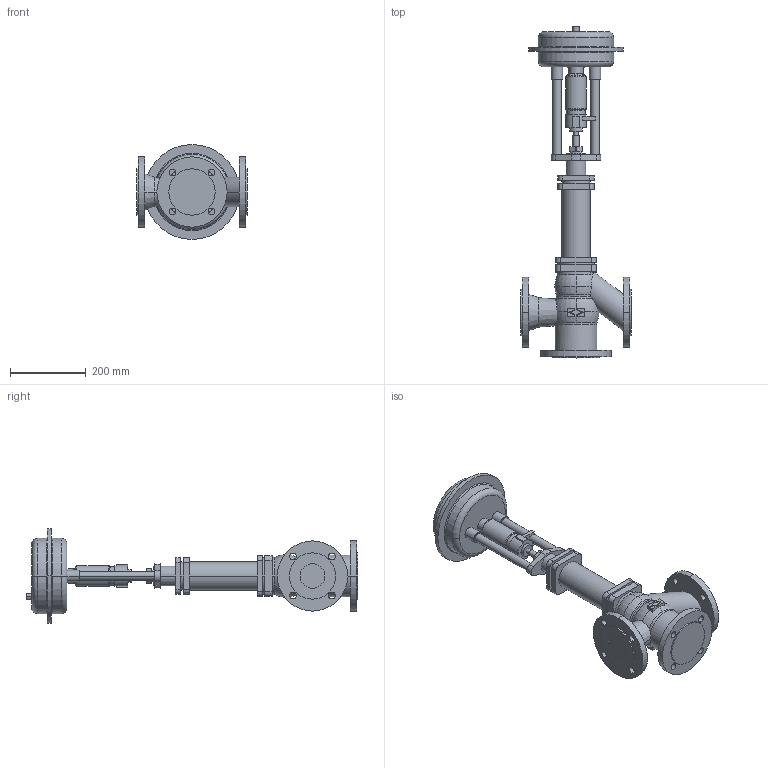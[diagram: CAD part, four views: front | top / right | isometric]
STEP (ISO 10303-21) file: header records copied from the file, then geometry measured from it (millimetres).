
FILE_DESCRIPTION(('OneSpaceDesigner STEP Export'),'2;1');
FILE_NAME('c000000433.stp','2006-09-20T 9:59:36',(''),(''),'OneSpace Designer STEP processor for AP214 (Solid Model)','OneSpace Designer 13.20A 18-Aug-2005 (C) CoCreate Software GmbH','');
FILE_SCHEMA(('AUTOMOTIVE_DESIGN { 1 0 10303 214 1 1 1 1 }'));
Length unit declared in the file: millimetre
Products named in the file (2): 1; 2
Bounding box: 290 x 875 x 250 mm (x, y, z)
Volume: 9464818.7 mm3; surface area: 635181.9 mm2
Topology: 2 solids, 2 shells, 257 faces, 632 edges, 413 vertices
Faces by surface type: cylinder 114, plane 101, torus 34, cone 8
Entity records: 6921 total; most frequent: CARTESIAN_POINT 1298, ORIENTED_EDGE 1264, DIRECTION 1040, EDGE_CURVE 632, VERTEX_POINT 413, AXIS2_PLACEMENT_3D 379, EDGE_LOOP 315, VECTOR 282
